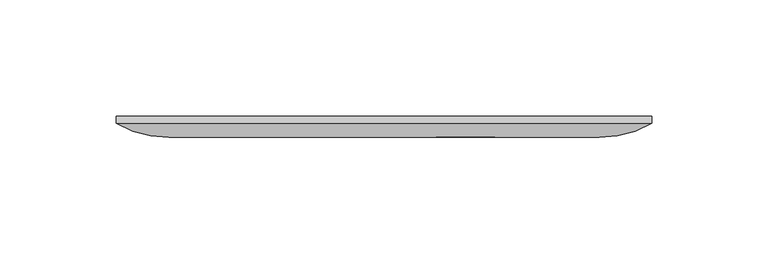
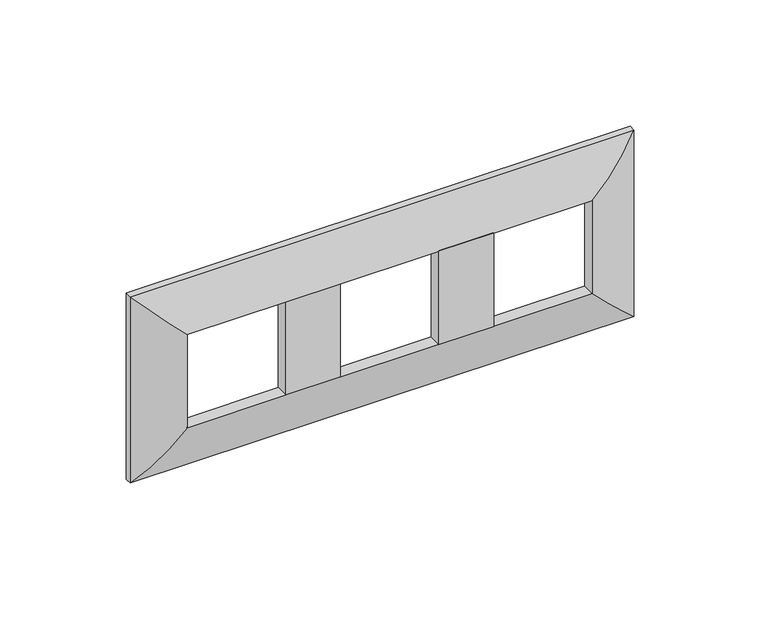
"""IFC4 building model written with IfcOpenShell, lengths in millimetres: proxy geometry."""

from ifc_helpers import new_model, si_unit, frame, origin, place, context, project, spatial, polyline, ellipse_curve, outline, extrude, source, transform, mapped, element, save
from ifc_brep_helpers import plane_surface, cylinder_surface, advanced_brep


def electrical_fixtures_89278909(model_context):
    return source(origin(), model_context, "Body", "SolidModel", [
        extrude(outline(polyline([(47.5, -9.0), (22.5, -9.0), (22.5, -3.0228771), (47.5, -3.0228771), (47.5, -9.0)])), frame((0.0, 0.0, -22.5), z_axis=(0.0, 0.0, 1.0), x_axis=(1.0, 0.0, 0.0)), (0.0, 0.0, 1.0), 45.0),
        advanced_brep(
        [(92.5, -3.0, -22.5), (92.5, -9.0, -22.5), (92.5, -9.0, 22.5), (92.5, -3.0, 22.5), (-22.5, -9.0, 22.5), (-22.5, -3.0, 22.5), (-92.5, -9.0, 22.5), (-92.5, -3.0, 22.5), (-47.5, -3.0, 22.5), (-47.5, -9.0, 22.5), (-92.5, -9.0, -22.5), (-92.5, -3.0, -22.5), (-22.5, -3.0, -22.5), (-22.5, -9.0, -22.5), (-47.5, -9.0, -22.5), (-47.5, -3.0, -22.5), (115.0, 0.0, -45.0), (-115.0, 0.0, -45.0), (-115.0, 0.0, 45.0), (115.0, 0.0, 45.0), (105.5, 0.0, 35.5), (-105.5, 0.0, 35.5), (-105.5, 0.0, -35.5), (105.5, 0.0, -35.5), (115.0, -3.0228771, 45.0), (115.0, -3.0228771, -45.0), (-115.0, -3.0228771, 45.0), (-115.0, -3.0228771, -45.0), (105.5, -3.0, -35.5), (105.5, -3.0, 35.5), (-105.5, -3.0, 35.5), (-105.5, -3.0, -35.5)],
        [
            (0, 1),
            (1, 2),
            (2, 3),
            (3, 0),
            (2, 4),
            (4, 5),
            (5, 3),
            (6, 7),
            (7, 8),
            (8, 9),
            (9, 6),
            (6, 10),
            (10, 11),
            (11, 7),
            (0, 12),
            (12, 13),
            (13, 1),
            (10, 14),
            (14, 15),
            (15, 11),
            (16, 17),
            (17, 18),
            (18, 19),
            (19, 16),
            (20, 21),
            (21, 22),
            (22, 23),
            (23, 20),
            (19, 24),
            (24, 25),
            (25, 16),
            (1, 25, ellipse_curve(frame((92.9967238, 34.4676878, -22.9967238), z_axis=(0.7071067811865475, 0.0, 0.7071067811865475), x_axis=(0.7071067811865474, 0.0, -0.7071067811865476)), 61.4766072, 43.4705258)),
            (24, 2, ellipse_curve(frame((92.9967238, 34.4676878, 22.9967238), z_axis=(0.7071067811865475, 0.0, -0.7071067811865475), x_axis=(-0.7071067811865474, 0.0, -0.7071067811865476)), 61.4766072, 43.4705258)),
            (18, 26),
            (26, 24),
            (26, 6, ellipse_curve(frame((-92.9967238, 34.4676878, 22.9967238), z_axis=(0.7071067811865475, 0.0, 0.7071067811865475), x_axis=(0.7071067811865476, 0.0, -0.7071067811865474)), 61.4766072, 43.4705258)),
            (9, 4),
            (17, 27),
            (27, 26),
            (27, 10, ellipse_curve(frame((-92.9967238, 34.4676878, -22.9967238), z_axis=(-0.7071067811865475, 0.0, 0.7071067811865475), x_axis=(0.7071067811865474, 0.0, 0.7071067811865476)), 61.4766072, 43.4705258)),
            (25, 27),
            (13, 14),
            (23, 28),
            (28, 29),
            (29, 20),
            (29, 30),
            (30, 21),
            (30, 31),
            (31, 22),
            (28, 31),
            (5, 12),
            (15, 8),
            (9, 14),
            (13, 4),
        ],
        [
            plane_surface(frame((92.5, -9.0, -22.5), z_axis=(-1.0, 0.0, 0.0), x_axis=(0.0, 0.0, 1.0))),
            plane_surface(frame((92.5, -9.0, 22.5), z_axis=(0.0, 0.0, -1.0), x_axis=(-1.0, 0.0, 0.0))),
            plane_surface(frame((-92.5, -9.0, 22.5), z_axis=(1.0, 0.0, 0.0), x_axis=(0.0, 0.0, -1.0))),
            plane_surface(frame((-92.5, -9.0, -22.5), z_axis=(0.0, 0.0, 1.0), x_axis=(1.0, 0.0, 0.0))),
            plane_surface(frame((-105.5, 0.0, -35.5), z_axis=(0.0, 1.0, 0.0), x_axis=(1.0, 0.0, 0.0))),
            plane_surface(frame((115.0, 0.0, -45.0), z_axis=(1.0, 0.0, 0.0), x_axis=(0.0, 0.0, 1.0))),
            cylinder_surface(frame((92.9967238, 34.4676878, -45.0), z_axis=(0.0, 0.0, -1.0), x_axis=(-1.0, 0.0, 0.0)), 43.4705258),
            plane_surface(frame((115.0, 0.0, 45.0), z_axis=(0.0, 0.0, 1.0), x_axis=(-1.0, 0.0, 0.0))),
            cylinder_surface(frame((115.0, 34.4676878, 22.9967238), z_axis=(1.0, 0.0, 0.0), x_axis=(0.0, 0.0, -1.0)), 43.4705258),
            plane_surface(frame((-115.0, 0.0, 45.0), z_axis=(-1.0, 0.0, 0.0), x_axis=(0.0, 0.0, -1.0))),
            cylinder_surface(frame((-92.9967238, 34.4676878, 45.0), z_axis=(0.0, 0.0, 1.0), x_axis=(1.0, 0.0, 0.0)), 43.4705258),
            plane_surface(frame((-115.0, 0.0, -45.0), z_axis=(0.0, 0.0, -1.0), x_axis=(1.0, 0.0, 0.0))),
            cylinder_surface(frame((-115.0, 34.4676878, -22.9967238), z_axis=(-1.0, 0.0, 0.0), x_axis=(0.0, 0.0, 1.0)), 43.4705258),
            plane_surface(frame((105.5, -3.0, -35.5), z_axis=(-1.0, 0.0, 0.0), x_axis=(0.0, 0.0, 1.0))),
            plane_surface(frame((105.5, -3.0, 35.5), z_axis=(0.0, 0.0, -1.0), x_axis=(-1.0, 0.0, 0.0))),
            plane_surface(frame((-105.5, -3.0, 35.5), z_axis=(1.0, 0.0, 0.0), x_axis=(0.0, 0.0, -1.0))),
            plane_surface(frame((-92.5, -3.0, -22.5), z_axis=(0.0, 1.0, 0.0), x_axis=(1.0, 0.0, 0.0))),
            plane_surface(frame((-105.5, -3.0, -35.5), z_axis=(0.0, 0.0, 1.0), x_axis=(1.0, 0.0, 0.0))),
            plane_surface(frame((-47.5, -9.0, 22.5), z_axis=(0.0, -1.0, 0.0), x_axis=(-1.0, 0.0, 0.0))),
            plane_surface(frame((-47.5, -9.0, 22.5), z_axis=(-1.0, 0.0, 0.0), x_axis=(0.0, 1.0, 0.0))),
            plane_surface(frame((-22.5, -9.0, -22.5), z_axis=(1.0, 0.0, 0.0), x_axis=(0.0, 1.0, 0.0))),
        ],
        [
            (0, [[1, 2, 3, 4]]),
            (1, [[-3, 5, 6, 7]]),
            (1, [[8, 9, 10, 11]]),
            (2, [[-8, 12, 13, 14]]),
            (3, [[-1, 15, 16, 17]]),
            (3, [[-13, 18, 19, 20]]),
            (4, [[21, 22, 23, 24], [25, 26, 27, 28]]),
            (5, [[-24, 29, 30, 31]]),
            (6, [[-2, 32, -30, 33]]),
            (7, [[-23, 34, 35, -29]]),
            (8, [[-33, -35, 36, -11, 37, -5]]),
            (9, [[-22, 38, 39, -34]]),
            (10, [[-12, -36, -39, 40]]),
            (11, [[-21, -31, 41, -38]]),
            (12, [[-32, -17, 42, -18, -40, -41]]),
            (13, [[-28, 43, 44, 45]]),
            (14, [[-25, -45, 46, 47]]),
            (15, [[-26, -47, 48, 49]]),
            (16, [[-44, 50, -48, -46], [-4, -7, 51, -15], [-20, 52, -9, -14]]),
            (17, [[-27, -49, -50, -43]]),
            (18, [[53, -42, 54, -37]]),
            (19, [[-53, -10, -52, -19]]),
            (20, [[-54, -16, -51, -6]]),
        ],
    ),
    ])


if __name__ == "__main__":
    model = new_model("IFC4")
    model_context = context("Model", 3, world=origin())
    ifc_project = project(units=[si_unit("LENGTHUNIT", "METRE", prefix="MILLI")], contexts=[model_context])
    site = spatial("IfcSite", under=ifc_project)
    building = spatial("IfcBuilding", under=site)
    placement = place(None, origin())
    electrical_fixtures_shape = electrical_fixtures_89278909(model_context)
    element("IfcBuildingElementProxy", 1, Name="Electrical Fixtures", at=placement, inside=building, context=model_context, shape_type="MappedRepresentation", body=[
        mapped(electrical_fixtures_shape, transform((0.0, 0.0, 0.0), x_axis=(1.0, 0.0, 0.0), y_axis=(0.0, 1.0, 0.0), z_axis=(0.0, 0.0, 1.0))),
    ])
    save(model, "model.ifc")
